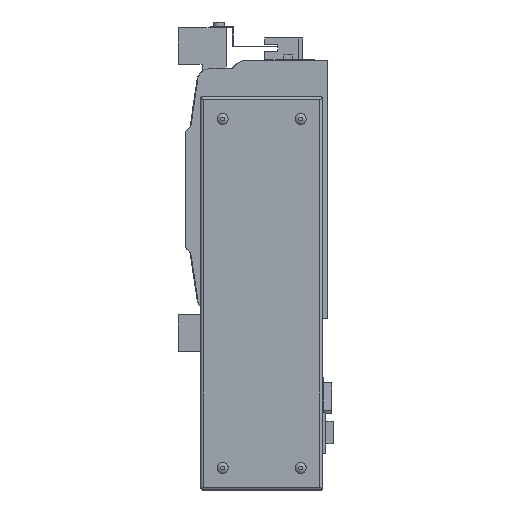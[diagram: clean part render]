
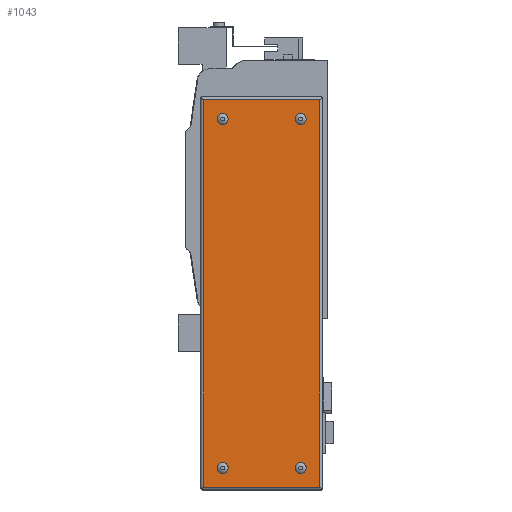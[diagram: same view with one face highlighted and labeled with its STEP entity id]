
A CAD part, left-side view. The second image highlights one B-rep face of the part: STEP entity #1043.
In plain terms, the highlighted planar face has unit normal (-1, 0, 0).
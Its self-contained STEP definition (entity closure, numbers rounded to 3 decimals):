
#1043 = ADVANCED_FACE( '', ( #2412, #2413, #2414, #2415, #2416 ), #2417, .F. );
#2412 = FACE_BOUND( '', #4235, .T. );
#2413 = FACE_BOUND( '', #4236, .T. );
#2414 = FACE_BOUND( '', #4237, .T. );
#2415 = FACE_BOUND( '', #4238, .T. );
#2416 = FACE_OUTER_BOUND( '', #4239, .T. );
#2417 = PLANE( '', #4240 );
#4235 = EDGE_LOOP( '', ( #6883 ) );
#4236 = EDGE_LOOP( '', ( #6884 ) );
#4237 = EDGE_LOOP( '', ( #6885 ) );
#4238 = EDGE_LOOP( '', ( #6886 ) );
#4239 = EDGE_LOOP( '', ( #6887, #6888, #6889, #6890 ) );
#4240 = AXIS2_PLACEMENT_3D( '', #6891, #6892, #6893 );
#6883 = ORIENTED_EDGE( '', *, *, #11264, .F. );
#6884 = ORIENTED_EDGE( '', *, *, #10670, .F. );
#6885 = ORIENTED_EDGE( '', *, *, #11265, .F. );
#6886 = ORIENTED_EDGE( '', *, *, #10719, .F. );
#6887 = ORIENTED_EDGE( '', *, *, #10922, .F. );
#6888 = ORIENTED_EDGE( '', *, *, #11266, .F. );
#6889 = ORIENTED_EDGE( '', *, *, #11267, .T. );
#6890 = ORIENTED_EDGE( '', *, *, #11268, .T. );
#6891 = CARTESIAN_POINT( '', ( -66., 0., 0. ) );
#6892 = DIRECTION( '', ( 1., 0., 0. ) );
#6893 = DIRECTION( '', ( 0., 0., -1. ) );
#10670 = EDGE_CURVE( '', #12738, #12738, #12739, .F. );
#10719 = EDGE_CURVE( '', #12824, #12824, #12825, .F. );
#10922 = EDGE_CURVE( '', #13176, #13178, #13179, .T. );
#11264 = EDGE_CURVE( '', #13735, #13735, #13736, .F. );
#11265 = EDGE_CURVE( '', #13737, #13737, #13738, .F. );
#11266 = EDGE_CURVE( '', #13739, #13176, #13740, .T. );
#11267 = EDGE_CURVE( '', #13739, #13741, #13742, .T. );
#11268 = EDGE_CURVE( '', #13741, #13178, #13743, .T. );
#12738 = VERTEX_POINT( '', #15719 );
#12739 = CIRCLE( '', #15720, 3.7 );
#12824 = VERTEX_POINT( '', #15831 );
#12825 = CIRCLE( '', #15832, 3.7 );
#13176 = VERTEX_POINT( '', #16318 );
#13178 = VERTEX_POINT( '', #16320 );
#13179 = LINE( '', #16321, #16322 );
#13735 = VERTEX_POINT( '', #17100 );
#13736 = CIRCLE( '', #17101, 3.7 );
#13737 = VERTEX_POINT( '', #17102 );
#13738 = CIRCLE( '', #17103, 3.7 );
#13739 = VERTEX_POINT( '', #17104 );
#13740 = LINE( '', #17105, #17106 );
#13741 = VERTEX_POINT( '', #17107 );
#13742 = LINE( '', #17108, #17109 );
#13743 = LINE( '', #17110, #17111 );
#15719 = CARTESIAN_POINT( '', ( -66., 18.5, 44.3 ) );
#15720 = AXIS2_PLACEMENT_3D( '', #19441, #19442, #19443 );
#15831 = CARTESIAN_POINT( '', ( -66., 71.5, 44.3 ) );
#15832 = AXIS2_PLACEMENT_3D( '', #19506, #19507, #19508 );
#16318 = CARTESIAN_POINT( '', ( -66., 5.5, 61. ) );
#16320 = CARTESIAN_POINT( '', ( -66., 5.5, -202. ) );
#16321 = CARTESIAN_POINT( '', ( -66., 5.5, 267. ) );
#16322 = VECTOR( '', #19734, 1000. );
#17100 = CARTESIAN_POINT( '', ( -66., 71.5, -192.7 ) );
#17101 = AXIS2_PLACEMENT_3D( '', #20098, #20099, #20100 );
#17102 = CARTESIAN_POINT( '', ( -66., 18.5, -192.7 ) );
#17103 = AXIS2_PLACEMENT_3D( '', #20101, #20102, #20103 );
#17104 = CARTESIAN_POINT( '', ( -66., 84.5, 61. ) );
#17105 = CARTESIAN_POINT( '', ( -66., 267., 61. ) );
#17106 = VECTOR( '', #20104, 1000. );
#17107 = CARTESIAN_POINT( '', ( -66., 84.5, -202. ) );
#17108 = CARTESIAN_POINT( '', ( -66., 84.5, 267. ) );
#17109 = VECTOR( '', #20105, 1000. );
#17110 = CARTESIAN_POINT( '', ( -66., 267., -202. ) );
#17111 = VECTOR( '', #20106, 1000. );
#19441 = CARTESIAN_POINT( '', ( -66., 18.5, 48. ) );
#19442 = DIRECTION( '', ( 1., 0., 0. ) );
#19443 = DIRECTION( '', ( 0., 0., -1. ) );
#19506 = CARTESIAN_POINT( '', ( -66., 71.5, 48. ) );
#19507 = DIRECTION( '', ( 1., 0., 0. ) );
#19508 = DIRECTION( '', ( 0., 0., -1. ) );
#19734 = DIRECTION( '', ( 0., 0., -1. ) );
#20098 = CARTESIAN_POINT( '', ( -66., 71.5, -189. ) );
#20099 = DIRECTION( '', ( 1., 0., 0. ) );
#20100 = DIRECTION( '', ( 0., 0., -1. ) );
#20101 = CARTESIAN_POINT( '', ( -66., 18.5, -189. ) );
#20102 = DIRECTION( '', ( 1., 0., 0. ) );
#20103 = DIRECTION( '', ( 0., 0., -1. ) );
#20104 = DIRECTION( '', ( 0., -1., 0. ) );
#20105 = DIRECTION( '', ( 0., 0., -1. ) );
#20106 = DIRECTION( '', ( 0., -1., 0. ) );
